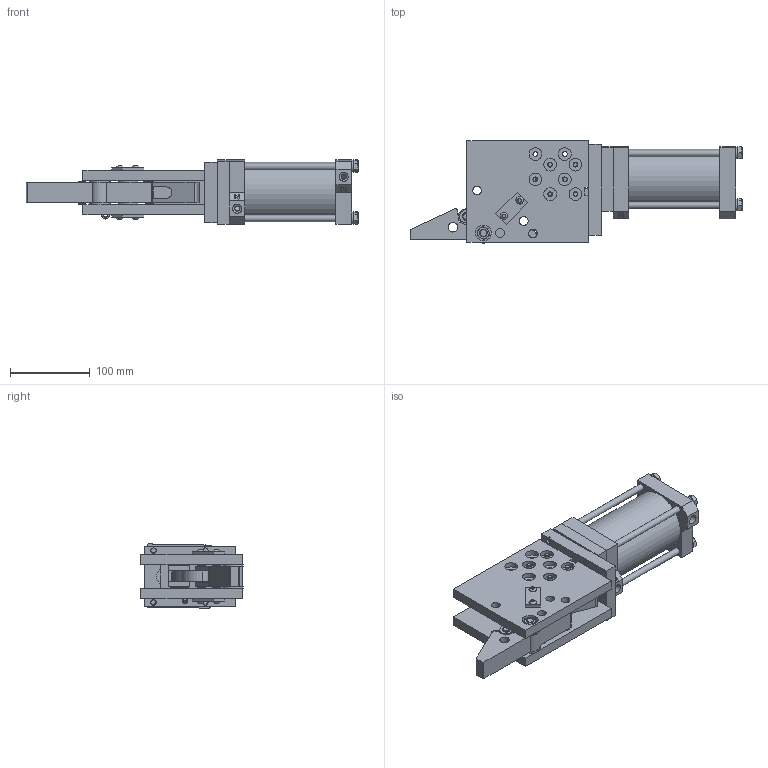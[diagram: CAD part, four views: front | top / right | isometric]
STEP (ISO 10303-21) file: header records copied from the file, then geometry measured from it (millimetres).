
FILE_DESCRIPTION(/* description */ (''),/* implementation_level */ '2;1');
FILE_NAME(/* name */ 'C:\Users\dholt\Desktop\CMX08V02A00.stp',/* time_stamp */ '2016-05-03T14:50:28-04:00',/* author */ ('DHolt'),/* organization */ (''),/* preprocessor_version */ 'ST-DEVELOPER v15.2',/* originating_system */ 'Autodesk Inventor 2014',/* authorisation */ '');
FILE_SCHEMA (('AUTOMOTIVE_DESIGN { 1 0 10303 214 3 1 1 }'));
Length unit declared in the file: centimetre
Products named in the file (42): NUT; NYLON; CMXE01-RH; CMXE01-LH; CMXE05; CMXE06; CMXE07; CMXE19; 0.500X1.500XHH-.250; 0.375-16 HEXJAMNUT; CJ08E10-4; 1 OD X .500 ID X .03; M5X0.8-12 BHCS; C-31ST-PA; CMXE04; 0.438-20X1.750 FLATPOINT; M8X1.25-20 SHCS; CMXE22; CMXE13; CMXE15-05; CMXE17; WCW-2169E01-50; CMXE02; CMXE03L; DB4E16; MC0750X1000-125N; TSR-075BN70; UBS40E01N; UBS40E08; S01303E04; MOR-2.0X016.0bn70; TSP-332BN70; MA1500x2.75DIA; 0.625ID-SAE; 0.625-18 HEXNUT; UBS40E02-50; UBS40E03N; MOR-3.0X064.0bn70; NL8; 0.313-24X7.250 HEX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
Bounding box: 415.91 x 128.01 x 80.66 mm (x, y, z)
Volume: 1385113.6 mm3; surface area: 456109.2 mm2
Topology: 72 solids, 72 shells, 1073 faces, 2304 edges, 1496 vertices
Faces by surface type: plane 517, cylinder 374, cone 160, torus 16, bspline 6
Full cylindrical faces by diameter (mm): 4.134 x4, 5 x4, 5.076 x1, 5.188 x4, 5.2 x4, 6 x14, 6.045 x16, 6.401 x2, 6.538 x1, 6.647 x16, 6.782 x4, 7.01 x6, 7.798 x1, 7.925 x9, 7.938 x4, 8 x19, 8.026 x20, 8.5 x4, 8.7 x4, 8.731 x8, 9 x4, 9.5 x4, 9.525 x2, 9.728 x3, 10.917 x8, 11.113 x1, 11.43 x4, 11.445 x2, 12 x1, 12.7 x11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
Entity records: 20968 total; most frequent: CARTESIAN_POINT 4159, DIRECTION 3564, ORIENTED_EDGE 2614, AXIS2_PLACEMENT_3D 1530, EDGE_LOOP 1320, EDGE_CURVE 1307, VERTEX_POINT 1011, ADVANCED_FACE 752
